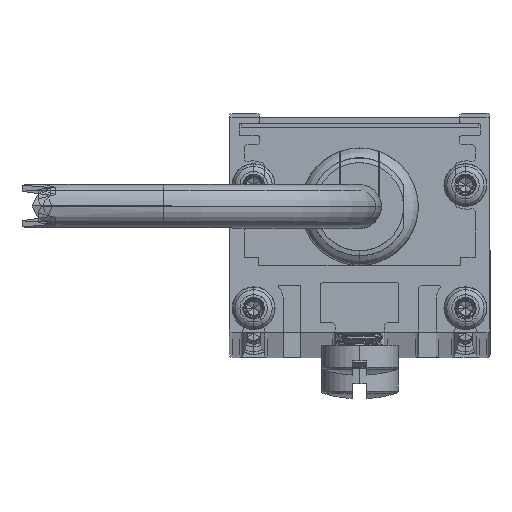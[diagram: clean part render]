
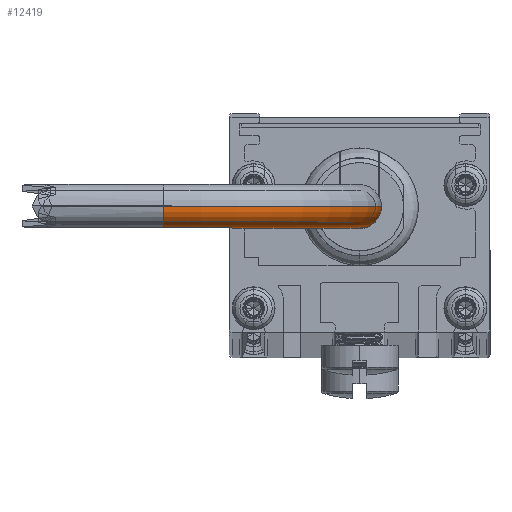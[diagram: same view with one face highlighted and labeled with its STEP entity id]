
A CAD part, top view. The second image highlights one B-rep face of the part: STEP entity #12419.
In plain terms, the highlighted toroidal (fillet/blend) face has major radius 25.4 mm and minor radius 2.845 mm.
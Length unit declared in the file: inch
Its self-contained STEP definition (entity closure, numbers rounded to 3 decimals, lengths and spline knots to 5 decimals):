
#527 = DIRECTION ( 'NONE',  ( 0., -1., 0. ) ) ;
#594 = DIRECTION ( 'NONE',  ( 1., 0., 0. ) ) ;
#605 = CARTESIAN_POINT ( 'NONE',  ( 1., 0., -1. ) ) ;
#618 = CARTESIAN_POINT ( 'NONE',  ( 0., 0., -1. ) ) ;
#671 = DIRECTION ( 'NONE',  ( 0., -1., 0. ) ) ;
#685 = DIRECTION ( 'NONE',  ( 0., 0., 1. ) ) ;
#1568 = CARTESIAN_POINT ( 'NONE',  ( 1., 0., -2. ) ) ;
#1936 = AXIS2_PLACEMENT_3D ( 'NONE', #11899, #7503, #12023 ) ;
#2044 = DIRECTION ( 'NONE',  ( 1., 0., 0. ) ) ;
#2505 = CIRCLE ( 'NONE', #16138, 0.888 ) ;
#2516 = ORIENTED_EDGE ( 'NONE', *, *, #5966, .F. ) ;
#3306 = AXIS2_PLACEMENT_3D ( 'NONE', #605, #671, #2044 ) ;
#3320 = AXIS2_PLACEMENT_3D ( 'NONE', #1568, #11677, #4424 ) ;
#3998 = AXIS2_PLACEMENT_3D ( 'NONE', #618, #685, #17889 ) ;
#4138 = CIRCLE ( 'NONE', #3320, 0.112 ) ;
#4424 = DIRECTION ( 'NONE',  ( 0., 0., 1. ) ) ;
#4545 = EDGE_CURVE ( 'NONE', #11380, #9907, #2505, .T. ) ;
#4895 = FACE_OUTER_BOUND ( 'NONE', #17154, .T. ) ;
#4972 = CARTESIAN_POINT ( 'NONE',  ( 1., 0., -1. ) ) ;
#5966 = EDGE_CURVE ( 'NONE', #12569, #11380, #15465, .T. ) ;
#6324 = CIRCLE ( 'NONE', #3306, 1.112 ) ;
#7503 = DIRECTION ( 'NONE',  ( 0., -1., 0. ) ) ;
#7884 = VERTEX_POINT ( 'NONE', #15185 ) ;
#9907 = VERTEX_POINT ( 'NONE', #18309 ) ;
#10016 = CARTESIAN_POINT ( 'NONE',  ( -0.112, 0., -1. ) ) ;
#10105 = ORIENTED_EDGE ( 'NONE', *, *, #11283, .T. ) ;
#10991 = ORIENTED_EDGE ( 'NONE', *, *, #17202, .T. ) ;
#11283 = EDGE_CURVE ( 'NONE', #7884, #9907, #4138, .T. ) ;
#11380 = VERTEX_POINT ( 'NONE', #17652 ) ;
#11677 = DIRECTION ( 'NONE',  ( -1., 0., 0. ) ) ;
#11899 = CARTESIAN_POINT ( 'NONE',  ( 1., 0., -1. ) ) ;
#12023 = DIRECTION ( 'NONE',  ( 0., 0., -1. ) ) ;
#12419 = ADVANCED_FACE ( 'NONE', ( #4895 ), #13551, .T. ) ;
#12569 = VERTEX_POINT ( 'NONE', #10016 ) ;
#12592 = ORIENTED_EDGE ( 'NONE', *, *, #4545, .F. ) ;
#13551 = TOROIDAL_SURFACE ( 'NONE', #1936, 1., 0.112 ) ;
#15185 = CARTESIAN_POINT ( 'NONE',  ( 1., 0., -2.112 ) ) ;
#15465 = CIRCLE ( 'NONE', #3998, 0.112 ) ;
#16138 = AXIS2_PLACEMENT_3D ( 'NONE', #4972, #527, #594 ) ;
#17154 = EDGE_LOOP ( 'NONE', ( #2516, #10991, #10105, #12592 ) ) ;
#17202 = EDGE_CURVE ( 'NONE', #12569, #7884, #6324, .T. ) ;
#17652 = CARTESIAN_POINT ( 'NONE',  ( 0.112, 0., -1. ) ) ;
#17889 = DIRECTION ( 'NONE',  ( 1., 0., 0. ) ) ;
#18309 = CARTESIAN_POINT ( 'NONE',  ( 1., 0., -1.888 ) ) ;
